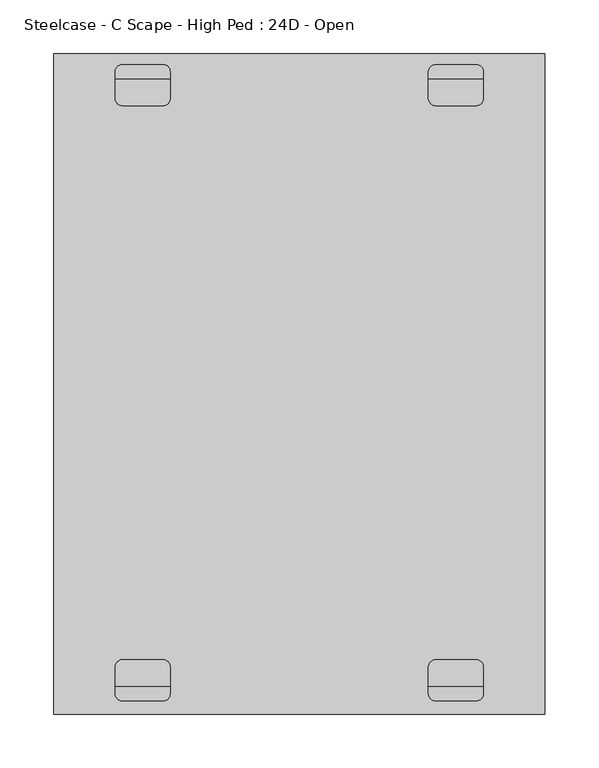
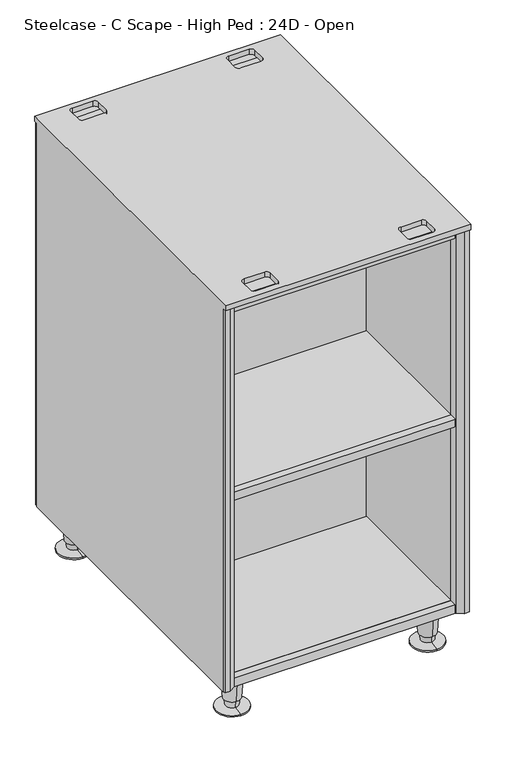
"""IFC4 building model written with IfcOpenShell, lengths in millimetres: furniture geometry, Steelcase - C Scape - High Ped : 24D - Open."""

from ifc_helpers import new_model, si_unit, frame, origin, place, context, project, spatial, polyline, circle_curve, outline, extrude, faceted_brep, source, transform, mapped, element, save
from ifc_brep_helpers import plane_surface, cylinder_surface, revolved_surface, advanced_brep


def steelcase_c_scape_high_ped_24d_open_cd475395(model_context):
    return source(origin(), model_context, "Body", "SolidModel", [
        extrude(outline(polyline([(11.5822775, -605.028), (11.5822775, -587.2480233), (21.5898062, -587.2480233), (21.5898062, -602.2339845), (9.5419322, -609.4730775), (0.3980765, -609.4730775), (0.3980765, -605.028), (11.5822775, -605.028)])), frame((0.0, 0.0, 76.2), z_axis=(0.0, 0.0, 1.0), x_axis=(1.0, 0.0, 0.0)), (0.0, 0.0, 1.0), 751.84),
        extrude(outline(polyline([(443.0776, -605.028), (454.2616522, -605.028), (454.2616522, -609.4730775), (445.1174429, -609.4730775), (433.07, -602.2342435), (433.07, -587.2480233), (443.0776, -587.2480233), (443.0776, -605.028)])), frame((0.0, 0.0, 76.2), z_axis=(0.0, 0.0, 1.0), x_axis=(1.0, 0.0, 0.0)), (0.0, 0.0, 1.0), 751.84),
        advanced_brep(
        [(408.94, -583.3530306, 0.0), (408.94, -524.1275906, 0.0), (408.94, -553.7403106, 0.0), (408.94, -583.3530306, 2.6912335), (408.94, -524.1275906, 2.6912335), (408.94, -565.6978983, 5.8043097), (408.94, -541.7827229, 5.8043097), (408.94, -566.3920755, 19.05), (408.94, -541.0885457, 19.05), (408.94, -569.1181713, 19.05), (408.94, -538.3624499, 19.05), (408.94, -573.1144886, 76.2), (408.94, -534.3661326, 76.2), (408.94, -553.7403106, 76.2)],
        [
            (0, 1, circle_curve(frame((408.94, -553.7403106, 0.0), z_axis=(0.0, 0.0, -1.0), x_axis=(0.0, 1.0, 0.0)), 29.61272)),
            (1, 2),
            (2, 0),
            (1, 0, circle_curve(frame((408.94, -553.7403106, 0.0), z_axis=(0.0, 0.0, -1.0), x_axis=(0.0, 1.0, 0.0)), 29.61272)),
            (3, 4, circle_curve(frame((408.94, -553.7403106, 2.6912335), z_axis=(0.0, 0.0, -1.0), x_axis=(0.0, 1.0, 0.0)), 29.61272)),
            (4, 1),
            (0, 3),
            (4, 3, circle_curve(frame((408.94, -553.7403106, 2.6912335), z_axis=(0.0, 0.0, -1.0), x_axis=(0.0, 1.0, 0.0)), 29.61272)),
            (5, 6, circle_curve(frame((408.94, -553.7403106, 5.8043097), z_axis=(0.0, 0.0, -1.0), x_axis=(0.0, 1.0, 0.0)), 11.9575877)),
            (6, 4),
            (3, 5),
            (6, 5, circle_curve(frame((408.94, -553.7403106, 5.8043097), z_axis=(0.0, 0.0, -1.0), x_axis=(0.0, 1.0, 0.0)), 11.9575877)),
            (7, 8, circle_curve(frame((408.94, -553.7403106, 19.05), z_axis=(0.0, 0.0, -1.0), x_axis=(0.0, 1.0, 0.0)), 12.6517649)),
            (8, 6),
            (5, 7),
            (8, 7, circle_curve(frame((408.94, -553.7403106, 19.05), z_axis=(0.0, 0.0, -1.0), x_axis=(0.0, 1.0, 0.0)), 12.6517649)),
            (9, 10, circle_curve(frame((408.94, -553.7403106, 19.05), z_axis=(0.0, 0.0, -1.0), x_axis=(0.0, 1.0, 0.0)), 15.3778607)),
            (10, 8),
            (7, 9),
            (10, 9, circle_curve(frame((408.94, -553.7403106, 19.05), z_axis=(0.0, 0.0, -1.0), x_axis=(0.0, 1.0, 0.0)), 15.3778607)),
            (11, 12, circle_curve(frame((408.94, -553.7403106, 76.2), z_axis=(0.0, 0.0, -1.0), x_axis=(0.0, 1.0, 0.0)), 19.374178)),
            (12, 10),
            (9, 11),
            (12, 11, circle_curve(frame((408.94, -553.7403106, 76.2), z_axis=(0.0, 0.0, -1.0), x_axis=(0.0, 1.0, 0.0)), 19.374178)),
            (13, 12),
            (11, 13),
        ],
        [
            plane_surface(frame((408.94, -553.7403106, 0.0), z_axis=(0.0, 0.0, -1.0), x_axis=(0.0, 1.0, 0.0))),
            cylinder_surface(frame((408.94, -553.7403106, -7.7422201), z_axis=(0.0, 0.0, 1.0), x_axis=(0.0, 1.0, 0.0)), 29.61272),
            revolved_surface(polyline([(408.94, -524.1275906, 2.6912335), (408.94, -541.7827229, 5.8043097)]), (408.94, -553.7403106, -7.7422201), (0.0, 0.0, 1.0)),
            revolved_surface(polyline([(408.94, -541.7827229, 5.8043097), (408.94, -541.0885457, 19.05)]), (408.94, -553.7403106, -7.7422201), (0.0, 0.0, 1.0)),
            plane_surface(frame((408.94, -553.7403106, 19.05), z_axis=(0.0, 0.0, -1.0), x_axis=(0.0, 1.0, 0.0))),
            revolved_surface(polyline([(408.94, -538.3624499, 19.05), (408.94, -534.3661326, 76.2)]), (408.94, -553.7403106, -7.7422201), (0.0, 0.0, 1.0)),
            plane_surface(frame((408.94, -553.7403106, 76.2), z_axis=(0.0, 0.0, 1.0), x_axis=(0.0, 1.0, 0.0))),
        ],
        [
            (0, [[1, 2, 3]]),
            (0, [[4, -3, -2]]),
            (1, [[5, 6, -1, 7]]),
            (1, [[8, -7, -4, -6]]),
            (2, [[9, 10, -5, 11]]),
            (2, [[12, -11, -8, -10]]),
            (3, [[13, 14, -9, 15]]),
            (3, [[16, -15, -12, -14]]),
            (4, [[17, 18, -13, 19]]),
            (4, [[20, -19, -16, -18]]),
            (5, [[21, 22, -17, 23]]),
            (5, [[24, -23, -20, -22]]),
            (6, [[25, -21, 26]]),
            (6, [[-26, -24, -25]]),
        ],
    ),
        advanced_brep(
        [(408.94, -25.4364339, 76.2), (408.94, -64.1847898, 76.2), (408.94, -44.8106119, 76.2), (408.94, -29.4327512, 19.05), (408.94, -60.1884725, 19.05), (408.94, -32.1588469, 19.05), (408.94, -57.4623768, 19.05), (408.94, -32.8530242, 5.8043097), (408.94, -56.7681995, 5.8043097), (408.94, -15.1978918, 2.6912335), (408.94, -74.4233319, 2.6912335), (408.94, -15.1978918, 0.0), (408.94, -74.4233319, 0.0), (408.94, -44.8106119, 0.0)],
        [
            (0, 1, circle_curve(frame((408.94, -44.8106119, 76.2), z_axis=(0.0, 0.0, 1.0), x_axis=(0.0, -1.0, 0.0)), 19.374178)),
            (1, 2),
            (2, 0),
            (1, 0, circle_curve(frame((408.94, -44.8106119, 76.2), z_axis=(0.0, 0.0, 1.0), x_axis=(0.0, -1.0, 0.0)), 19.374178)),
            (3, 4, circle_curve(frame((408.94, -44.8106119, 19.05), z_axis=(0.0, 0.0, 1.0), x_axis=(0.0, -1.0, 0.0)), 15.3778607)),
            (4, 1),
            (0, 3),
            (4, 3, circle_curve(frame((408.94, -44.8106119, 19.05), z_axis=(0.0, 0.0, 1.0), x_axis=(0.0, -1.0, 0.0)), 15.3778607)),
            (5, 6, circle_curve(frame((408.94, -44.8106119, 19.05), z_axis=(0.0, 0.0, 1.0), x_axis=(0.0, -1.0, 0.0)), 12.6517649)),
            (6, 4),
            (3, 5),
            (6, 5, circle_curve(frame((408.94, -44.8106119, 19.05), z_axis=(0.0, 0.0, 1.0), x_axis=(0.0, -1.0, 0.0)), 12.6517649)),
            (7, 8, circle_curve(frame((408.94, -44.8106119, 5.8043097), z_axis=(0.0, 0.0, 1.0), x_axis=(0.0, -1.0, 0.0)), 11.9575877)),
            (8, 6),
            (5, 7),
            (8, 7, circle_curve(frame((408.94, -44.8106119, 5.8043097), z_axis=(0.0, 0.0, 1.0), x_axis=(0.0, -1.0, 0.0)), 11.9575877)),
            (9, 10, circle_curve(frame((408.94, -44.8106119, 2.6912335), z_axis=(0.0, 0.0, 1.0), x_axis=(0.0, -1.0, 0.0)), 29.61272)),
            (10, 8),
            (7, 9),
            (10, 9, circle_curve(frame((408.94, -44.8106119, 2.6912335), z_axis=(0.0, 0.0, 1.0), x_axis=(0.0, -1.0, 0.0)), 29.61272)),
            (11, 12, circle_curve(frame((408.94, -44.8106119, 0.0), z_axis=(0.0, 0.0, 1.0), x_axis=(0.0, -1.0, 0.0)), 29.61272)),
            (12, 10),
            (9, 11),
            (12, 11, circle_curve(frame((408.94, -44.8106119, 0.0), z_axis=(0.0, 0.0, 1.0), x_axis=(0.0, -1.0, 0.0)), 29.61272)),
            (13, 12),
            (11, 13),
        ],
        [
            plane_surface(frame((408.94, -44.8106119, 76.2), z_axis=(0.0, 0.0, 1.0), x_axis=(0.0, -1.0, 0.0))),
            revolved_surface(polyline([(408.94, -64.1847898, 76.2), (408.94, -60.1884725, 19.05)]), (408.94, -44.8106119, -7.7422201), (0.0, 0.0, -1.0)),
            plane_surface(frame((408.94, -44.8106119, 19.05), z_axis=(0.0, 0.0, -1.0), x_axis=(0.0, -1.0, 0.0))),
            revolved_surface(polyline([(408.94, -57.4623768, 19.05), (408.94, -56.7681995, 5.8043097)]), (408.94, -44.8106119, -7.7422201), (0.0, 0.0, -1.0)),
            revolved_surface(polyline([(408.94, -56.7681995, 5.8043097), (408.94, -74.4233319, 2.6912335)]), (408.94, -44.8106119, -7.7422201), (0.0, 0.0, -1.0)),
            cylinder_surface(frame((408.94, -44.8106119, -7.7422201), z_axis=(0.0, 0.0, -1.0), x_axis=(0.0, -1.0, 0.0)), 29.61272),
            plane_surface(frame((408.94, -44.8106119, 0.0), z_axis=(0.0, 0.0, -1.0), x_axis=(0.0, -1.0, 0.0))),
        ],
        [
            (0, [[1, 2, 3]]),
            (0, [[4, -3, -2]]),
            (1, [[5, 6, -1, 7]]),
            (1, [[8, -7, -4, -6]]),
            (2, [[9, 10, -5, 11]]),
            (2, [[12, -11, -8, -10]]),
            (3, [[13, 14, -9, 15]]),
            (3, [[16, -15, -12, -14]]),
            (4, [[17, 18, -13, 19]]),
            (4, [[20, -19, -16, -18]]),
            (5, [[21, 22, -17, 23]]),
            (5, [[24, -23, -20, -22]]),
            (6, [[25, -21, 26]]),
            (6, [[-26, -24, -25]]),
        ],
    ),
        advanced_brep(
        [(45.7198062, -573.1144886, 76.2), (45.7198062, -534.3661326, 76.2), (45.7198062, -553.7403106, 76.2), (45.7198062, -569.1181713, 19.05), (45.7198062, -538.3624499, 19.05), (45.7198062, -566.3920755, 19.05), (45.7198062, -541.0885457, 19.05), (45.7198062, -565.6978983, 5.8043097), (45.7198062, -541.7827229, 5.8043097), (45.7198062, -583.3530306, 2.6912335), (45.7198062, -524.1275906, 2.6912335), (45.7198062, -583.3530306, 0.0), (45.7198062, -524.1275906, 0.0), (45.7198062, -553.7403106, 0.0)],
        [
            (0, 1, circle_curve(frame((45.7198062, -553.7403106, 76.2), z_axis=(0.0, 0.0, 1.0), x_axis=(0.0, 1.0, 0.0)), 19.374178)),
            (1, 2),
            (2, 0),
            (1, 0, circle_curve(frame((45.7198062, -553.7403106, 76.2), z_axis=(0.0, 0.0, 1.0), x_axis=(0.0, 1.0, 0.0)), 19.374178)),
            (3, 4, circle_curve(frame((45.7198062, -553.7403106, 19.05), z_axis=(0.0, 0.0, 1.0), x_axis=(0.0, 1.0, 0.0)), 15.3778607)),
            (4, 1),
            (0, 3),
            (4, 3, circle_curve(frame((45.7198062, -553.7403106, 19.05), z_axis=(0.0, 0.0, 1.0), x_axis=(0.0, 1.0, 0.0)), 15.3778607)),
            (5, 6, circle_curve(frame((45.7198062, -553.7403106, 19.05), z_axis=(0.0, 0.0, 1.0), x_axis=(0.0, 1.0, 0.0)), 12.6517649)),
            (6, 4),
            (3, 5),
            (6, 5, circle_curve(frame((45.7198062, -553.7403106, 19.05), z_axis=(0.0, 0.0, 1.0), x_axis=(0.0, 1.0, 0.0)), 12.6517649)),
            (7, 8, circle_curve(frame((45.7198062, -553.7403106, 5.8043097), z_axis=(0.0, 0.0, 1.0), x_axis=(0.0, 1.0, 0.0)), 11.9575877)),
            (8, 6),
            (5, 7),
            (8, 7, circle_curve(frame((45.7198062, -553.7403106, 5.8043097), z_axis=(0.0, 0.0, 1.0), x_axis=(0.0, 1.0, 0.0)), 11.9575877)),
            (9, 10, circle_curve(frame((45.7198062, -553.7403106, 2.6912335), z_axis=(0.0, 0.0, 1.0), x_axis=(0.0, 1.0, 0.0)), 29.61272)),
            (10, 8),
            (7, 9),
            (10, 9, circle_curve(frame((45.7198062, -553.7403106, 2.6912335), z_axis=(0.0, 0.0, 1.0), x_axis=(0.0, 1.0, 0.0)), 29.61272)),
            (11, 12, circle_curve(frame((45.7198062, -553.7403106, 0.0), z_axis=(0.0, 0.0, 1.0), x_axis=(0.0, 1.0, 0.0)), 29.61272)),
            (12, 10),
            (9, 11),
            (12, 11, circle_curve(frame((45.7198062, -553.7403106, 0.0), z_axis=(0.0, 0.0, 1.0), x_axis=(0.0, 1.0, 0.0)), 29.61272)),
            (13, 12),
            (11, 13),
        ],
        [
            plane_surface(frame((45.7198062, -553.7403106, 76.2), z_axis=(0.0, 0.0, 1.0), x_axis=(0.0, 1.0, 0.0))),
            revolved_surface(polyline([(45.7198062, -534.3661326, 76.2), (45.7198062, -538.3624499, 19.05)]), (45.7198062, -553.7403106, -7.7422201), (0.0, 0.0, -1.0)),
            plane_surface(frame((45.7198062, -553.7403106, 19.05), z_axis=(0.0, 0.0, -1.0), x_axis=(0.0, 1.0, 0.0))),
            revolved_surface(polyline([(45.7198062, -541.0885457, 19.05), (45.7198062, -541.7827229, 5.8043097)]), (45.7198062, -553.7403106, -7.7422201), (0.0, 0.0, -1.0)),
            revolved_surface(polyline([(45.7198062, -541.7827229, 5.8043097), (45.7198062, -524.1275906, 2.6912335)]), (45.7198062, -553.7403106, -7.7422201), (0.0, 0.0, -1.0)),
            cylinder_surface(frame((45.7198062, -553.7403106, -7.7422201), z_axis=(0.0, 0.0, -1.0), x_axis=(0.0, 1.0, 0.0)), 29.61272),
            plane_surface(frame((45.7198062, -553.7403106, 0.0), z_axis=(0.0, 0.0, -1.0), x_axis=(0.0, 1.0, 0.0))),
        ],
        [
            (0, [[1, 2, 3]]),
            (0, [[4, -3, -2]]),
            (1, [[5, 6, -1, 7]]),
            (1, [[8, -7, -4, -6]]),
            (2, [[9, 10, -5, 11]]),
            (2, [[12, -11, -8, -10]]),
            (3, [[13, 14, -9, 15]]),
            (3, [[16, -15, -12, -14]]),
            (4, [[17, 18, -13, 19]]),
            (4, [[20, -19, -16, -18]]),
            (5, [[21, 22, -17, 23]]),
            (5, [[24, -23, -20, -22]]),
            (6, [[25, -21, 26]]),
            (6, [[-26, -24, -25]]),
        ],
    ),
        advanced_brep(
        [(45.7198062, -15.1978918, 0.0), (45.7198062, -74.4233319, 0.0), (45.7198062, -44.8106119, 0.0), (45.7198062, -15.1978918, 2.6912335), (45.7198062, -74.4233319, 2.6912335), (45.7198062, -32.8530242, 5.8043097), (45.7198062, -56.7681995, 5.8043097), (45.7198062, -32.1588469, 19.05), (45.7198062, -57.4623768, 19.05), (45.7198062, -29.4327512, 19.05), (45.7198062, -60.1884725, 19.05), (45.7198062, -25.4364339, 76.2), (45.7198062, -64.1847898, 76.2), (45.7198062, -44.8106119, 76.2)],
        [
            (0, 1, circle_curve(frame((45.7198062, -44.8106119, 0.0), z_axis=(0.0, 0.0, -1.0), x_axis=(0.0, -1.0, 0.0)), 29.61272)),
            (1, 2),
            (2, 0),
            (1, 0, circle_curve(frame((45.7198062, -44.8106119, 0.0), z_axis=(0.0, 0.0, -1.0), x_axis=(0.0, -1.0, 0.0)), 29.61272)),
            (3, 4, circle_curve(frame((45.7198062, -44.8106119, 2.6912335), z_axis=(0.0, 0.0, -1.0), x_axis=(0.0, -1.0, 0.0)), 29.61272)),
            (4, 1),
            (0, 3),
            (4, 3, circle_curve(frame((45.7198062, -44.8106119, 2.6912335), z_axis=(0.0, 0.0, -1.0), x_axis=(0.0, -1.0, 0.0)), 29.61272)),
            (5, 6, circle_curve(frame((45.7198062, -44.8106119, 5.8043097), z_axis=(0.0, 0.0, -1.0), x_axis=(0.0, -1.0, 0.0)), 11.9575877)),
            (6, 4),
            (3, 5),
            (6, 5, circle_curve(frame((45.7198062, -44.8106119, 5.8043097), z_axis=(0.0, 0.0, -1.0), x_axis=(0.0, -1.0, 0.0)), 11.9575877)),
            (7, 8, circle_curve(frame((45.7198062, -44.8106119, 19.05), z_axis=(0.0, 0.0, -1.0), x_axis=(0.0, -1.0, 0.0)), 12.6517649)),
            (8, 6),
            (5, 7),
            (8, 7, circle_curve(frame((45.7198062, -44.8106119, 19.05), z_axis=(0.0, 0.0, -1.0), x_axis=(0.0, -1.0, 0.0)), 12.6517649)),
            (9, 10, circle_curve(frame((45.7198062, -44.8106119, 19.05), z_axis=(0.0, 0.0, -1.0), x_axis=(0.0, -1.0, 0.0)), 15.3778607)),
            (10, 8),
            (7, 9),
            (10, 9, circle_curve(frame((45.7198062, -44.8106119, 19.05), z_axis=(0.0, 0.0, -1.0), x_axis=(0.0, -1.0, 0.0)), 15.3778607)),
            (11, 12, circle_curve(frame((45.7198062, -44.8106119, 76.2), z_axis=(0.0, 0.0, -1.0), x_axis=(0.0, -1.0, 0.0)), 19.374178)),
            (12, 10),
            (9, 11),
            (12, 11, circle_curve(frame((45.7198062, -44.8106119, 76.2), z_axis=(0.0, 0.0, -1.0), x_axis=(0.0, -1.0, 0.0)), 19.374178)),
            (13, 12),
            (11, 13),
        ],
        [
            plane_surface(frame((45.7198062, -44.8106119, 0.0), z_axis=(0.0, 0.0, -1.0), x_axis=(0.0, -1.0, 0.0))),
            cylinder_surface(frame((45.7198062, -44.8106119, -7.7422201), z_axis=(0.0, 0.0, 1.0), x_axis=(0.0, -1.0, 0.0)), 29.61272),
            revolved_surface(polyline([(45.7198062, -74.4233319, 2.6912335), (45.7198062, -56.7681995, 5.8043097)]), (45.7198062, -44.8106119, -7.7422201), (0.0, 0.0, 1.0)),
            revolved_surface(polyline([(45.7198062, -56.7681995, 5.8043097), (45.7198062, -57.4623768, 19.05)]), (45.7198062, -44.8106119, -7.7422201), (0.0, 0.0, 1.0)),
            plane_surface(frame((45.7198062, -44.8106119, 19.05), z_axis=(0.0, 0.0, -1.0), x_axis=(0.0, -1.0, 0.0))),
            revolved_surface(polyline([(45.7198062, -60.1884725, 19.05), (45.7198062, -64.1847898, 76.2)]), (45.7198062, -44.8106119, -7.7422201), (0.0, 0.0, 1.0)),
            plane_surface(frame((45.7198062, -44.8106119, 76.2), z_axis=(0.0, 0.0, 1.0), x_axis=(0.0, -1.0, 0.0))),
        ],
        [
            (0, [[1, 2, 3]]),
            (0, [[4, -3, -2]]),
            (1, [[5, 6, -1, 7]]),
            (1, [[8, -7, -4, -6]]),
            (2, [[9, 10, -5, 11]]),
            (2, [[12, -11, -8, -10]]),
            (3, [[13, 14, -9, 15]]),
            (3, [[16, -15, -12, -14]]),
            (4, [[17, 18, -13, 19]]),
            (4, [[20, -19, -16, -18]]),
            (5, [[21, 22, -17, 23]]),
            (5, [[24, -23, -20, -22]]),
            (6, [[25, -21, 26]]),
            (6, [[-26, -24, -25]]),
        ],
    ),
        advanced_brep(
        [(-0.635, -613.156, 838.2), (-0.635, 0.0, 838.2), (-0.635, 0.0, 828.04), (-0.635, -5.842, 828.04), (-0.635, -5.842, 76.2), (-0.635, -605.028, 76.2), (-0.635, -605.028, 828.04), (-0.635, -613.156, 828.04), (455.295, -613.156, 838.2), (455.295, -613.156, 828.04), (455.295, -605.028, 828.04), (455.295, -605.028, 76.2), (455.295, -5.842, 76.2), (455.295, -5.842, 828.04), (455.295, 0.0, 828.04), (455.295, 0.0, 838.2), (21.5898062, -587.2480233, 92.7100024), (433.0701938, -587.2480233, 92.7100024), (433.0701938, -315.595, 92.7100024), (21.5898062, -315.595, 92.7100024), (433.0701938, -23.6219767, 92.7100024), (21.5898062, -23.6219767, 92.7100024), (21.5898062, -297.561, 92.7100024), (433.0701938, -297.561, 92.7100024), (443.0777225, -23.6219767, 828.04), (443.0777225, -23.6219767, 76.2), (11.5822775, -23.6219767, 76.2), (11.5822775, -23.6219767, 828.04), (56.5151938, -23.6219767, 828.04), (107.3148062, -23.6219767, 828.04), (347.3449225, -23.6219767, 828.04), (398.1445349, -23.6219767, 828.04), (433.0701938, -23.6219767, 441.604404), (21.5898062, -23.6219767, 441.604404), (21.5898062, -23.6219767, 457.2), (433.0701938, -23.6219767, 457.2), (433.0701938, -23.6219767, 811.5299709), (21.5898062, -23.6219767, 811.5299709), (11.5822775, -5.842, 76.2), (443.0777225, -5.842, 76.2), (443.0777225, -605.028, 76.2), (443.0777225, -587.2480233, 76.2), (11.5822775, -587.2480233, 76.2), (11.5822775, -605.028, 76.2), (347.3449225, -587.2480233, 828.04), (107.3148062, -587.2480233, 828.04), (56.5151938, -587.2480233, 828.04), (11.5822775, -587.2480233, 828.04), (443.0777225, -587.2480233, 828.04), (398.1445349, -587.2480233, 828.04), (21.5898062, -587.2480233, 441.604404), (433.0701938, -587.2480233, 441.604404), (433.0701938, -587.2480233, 457.2), (21.5898062, -587.2480233, 457.2), (21.5898062, -587.2480233, 811.5299709), (433.0701938, -587.2480233, 811.5299709), (21.5898062, -297.561, 457.2), (433.0701938, -297.561, 457.2), (433.0701938, -315.595, 457.2), (21.5898062, -315.595, 457.2), (433.0701938, -297.561, 441.604404), (21.5898062, -297.561, 441.604404), (21.5898062, -315.595, 441.604404), (433.0701938, -315.595, 441.604404), (100.9648062, -600.9640465, 838.2), (62.8651938, -600.9640465, 838.2), (56.5151938, -594.6132714, 838.2), (56.5151938, -569.2140465, 838.2), (62.8651938, -562.8640465, 838.2), (100.9648062, -562.8640465, 838.2), (107.3148062, -569.2140465, 838.2), (107.3148062, -594.6132714, 838.2), (353.694535, -600.9632714, 838.2), (347.3449225, -594.6132714, 838.2), (347.3449225, -569.2140465, 838.2), (353.6949225, -562.8640465, 838.2), (391.7945349, -562.8640465, 838.2), (398.1445349, -569.2140465, 838.2), (398.1445349, -594.6132714, 838.2), (391.7945349, -600.9632714, 838.2), (107.3148062, -41.6555117, 838.2), (100.9648062, -48.0055117, 838.2), (62.8651938, -48.0062868, 838.2), (56.5151938, -41.6555117, 838.2), (56.5151938, -16.2562868, 838.2), (62.8651938, -9.9062868, 838.2), (100.9648062, -9.9062868, 838.2), (107.3148062, -16.2562868, 838.2), (391.7945349, -48.0062868, 838.2), (353.694535, -48.0062868, 838.2), (347.3449225, -41.6555117, 838.2), (347.3449225, -16.2562868, 838.2), (353.6949225, -9.9062868, 838.2), (391.7945349, -9.9062868, 838.2), (398.1445349, -16.2562868, 838.2), (398.1445349, -41.6555117, 838.2), (443.0777225, -5.842, 828.04), (398.1445349, -16.2562868, 828.04), (391.7945349, -9.9062868, 828.04), (353.6949225, -9.9062868, 828.04), (347.3449225, -16.2562868, 828.04), (107.3148062, -16.2562868, 828.04), (100.9648062, -9.9062868, 828.04), (62.8651938, -9.9062868, 828.04), (56.5151938, -16.2562868, 828.04), (11.5822775, -5.842, 828.04), (433.0701938, -297.561, 811.5299709), (21.5898062, -297.561, 811.5299709), (21.5898062, -315.595, 811.5299709), (433.0701938, -315.595, 811.5299709), (11.5822775, -605.028, 828.04), (56.5151938, -594.6132714, 828.04), (62.8651938, -600.9632714, 828.04), (100.9648062, -600.9640465, 828.04), (107.3148062, -594.6132714, 828.04), (347.3449225, -594.6132714, 828.04), (353.694535, -600.9632714, 828.04), (391.7945349, -600.9640465, 828.04), (398.1445349, -594.6132714, 828.04), (443.0777225, -605.028, 828.04), (107.3148062, -569.2140465, 828.04), (100.9648062, -562.8640465, 828.04), (62.8651938, -562.8640465, 828.04), (56.5151938, -569.2140465, 828.04), (398.1445349, -569.2140465, 828.04), (391.7945349, -562.8640465, 828.04), (353.6949225, -562.8640465, 828.04), (347.3449225, -569.2140465, 828.04), (100.9648062, -48.0055117, 828.04), (107.3148062, -41.6555117, 828.04), (56.5151938, -41.6555117, 828.04), (62.8651938, -48.0055117, 828.04), (353.6945349, -48.0062868, 828.04), (391.7945349, -48.0062868, 828.04), (398.1445349, -41.6555117, 828.04), (347.3449225, -41.6555117, 828.04)],
        [
            (0, 1),
            (1, 2),
            (2, 3),
            (3, 4),
            (4, 5),
            (5, 6),
            (6, 7),
            (7, 0),
            (8, 9),
            (9, 10),
            (10, 11),
            (11, 12),
            (12, 13),
            (13, 14),
            (14, 15),
            (15, 8),
            (16, 17),
            (17, 18),
            (18, 19),
            (19, 16),
            (20, 21),
            (21, 22),
            (22, 23),
            (23, 20),
            (24, 25),
            (25, 26),
            (26, 27),
            (27, 28),
            (28, 29),
            (29, 30),
            (30, 31),
            (31, 24),
            (20, 32),
            (32, 33),
            (33, 21),
            (34, 35),
            (35, 36),
            (36, 37),
            (37, 34),
            (38, 26),
            (25, 39),
            (39, 12),
            (11, 40),
            (40, 41),
            (41, 42),
            (42, 43),
            (43, 5),
            (4, 38),
            (44, 45),
            (45, 46),
            (46, 47),
            (47, 42),
            (41, 48),
            (48, 49),
            (49, 44),
            (16, 50),
            (50, 51),
            (51, 17),
            (52, 53),
            (53, 54),
            (54, 55),
            (55, 52),
            (34, 56),
            (56, 57),
            (57, 35),
            (52, 58),
            (58, 59),
            (59, 53),
            (32, 60),
            (60, 61),
            (61, 33),
            (50, 62),
            (62, 63),
            (63, 51),
            (0, 8),
            (15, 1),
            (64, 65),
            (65, 66, circle_curve(frame((62.8651938, -594.6132714, 838.2), z_axis=(0.0, 0.0, -1.0), x_axis=(0.0, -1.0, 0.0)), 6.35)),
            (66, 67),
            (67, 68, circle_curve(frame((62.8651938, -569.2140465, 838.2), z_axis=(0.0, 0.0, -1.0), x_axis=(0.0, -1.0, 0.0)), 6.35)),
            (68, 69),
            (69, 70, circle_curve(frame((100.9648062, -569.2140465, 838.2), z_axis=(0.0, 0.0, -1.0), x_axis=(0.0, -1.0, 0.0)), 6.35)),
            (70, 71),
            (71, 64, circle_curve(frame((100.9648062, -594.6132714, 838.2), z_axis=(0.0, 0.0, -1.0), x_axis=(0.0, -1.0, 0.0)), 6.35)),
            (72, 73, circle_curve(frame((353.6949225, -594.6132714, 838.2), z_axis=(0.0, 0.0, -1.0), x_axis=(0.0, -1.0, 0.0)), 6.35)),
            (73, 74),
            (74, 75, circle_curve(frame((353.6949225, -569.2140465, 838.2), z_axis=(0.0, 0.0, -1.0), x_axis=(0.0, -1.0, 0.0)), 6.35)),
            (75, 76),
            (76, 77, circle_curve(frame((391.7945349, -569.2140465, 838.2), z_axis=(0.0, 0.0, -1.0), x_axis=(0.0, -1.0, 0.0)), 6.35)),
            (77, 78),
            (78, 79, circle_curve(frame((391.7945349, -594.6132714, 838.2), z_axis=(0.0, 0.0, -1.0), x_axis=(0.0, -1.0, 0.0)), 6.35)),
            (79, 72),
            (80, 81, circle_curve(frame((100.9648062, -41.6555117, 838.2), z_axis=(0.0, 0.0, -1.0), x_axis=(0.0, 1.0, 0.0)), 6.35)),
            (81, 82),
            (82, 83, circle_curve(frame((62.8651938, -41.6555117, 838.2), z_axis=(0.0, 0.0, -1.0), x_axis=(0.0, 1.0, 0.0)), 6.35)),
            (83, 84),
            (84, 85, circle_curve(frame((62.8651938, -16.2562868, 838.2), z_axis=(0.0, 0.0, -1.0), x_axis=(0.0, 1.0, 0.0)), 6.35)),
            (85, 86),
            (86, 87, circle_curve(frame((100.9648062, -16.2562868, 838.2), z_axis=(0.0, 0.0, -1.0), x_axis=(0.0, 1.0, 0.0)), 6.35)),
            (87, 80),
            (88, 89),
            (89, 90, circle_curve(frame((353.6949225, -41.6555117, 838.2), z_axis=(0.0, 0.0, -1.0), x_axis=(0.0, 1.0, 0.0)), 6.35)),
            (90, 91),
            (91, 92, circle_curve(frame((353.6949225, -16.2562868, 838.2), z_axis=(0.0, 0.0, -1.0), x_axis=(0.0, 1.0, 0.0)), 6.35)),
            (92, 93),
            (93, 94, circle_curve(frame((391.7945349, -16.2562868, 838.2), z_axis=(0.0, 0.0, -1.0), x_axis=(0.0, 1.0, 0.0)), 6.35)),
            (94, 95),
            (95, 88, circle_curve(frame((391.7945349, -41.6555117, 838.2), z_axis=(0.0, 0.0, -1.0), x_axis=(0.0, 1.0, 0.0)), 6.35)),
            (14, 2),
            (13, 96),
            (96, 24),
            (31, 97),
            (97, 98, circle_curve(frame((391.7945349, -16.2562868, 828.04), z_axis=(0.0, 0.0, 1.0), x_axis=(0.0, 1.0, 0.0)), 6.35)),
            (98, 99),
            (99, 100, circle_curve(frame((353.6949225, -16.2562868, 828.04), z_axis=(0.0, 0.0, 1.0), x_axis=(0.0, 1.0, 0.0)), 6.35)),
            (100, 30),
            (29, 101),
            (101, 102, circle_curve(frame((100.9648062, -16.2562868, 828.04), z_axis=(0.0, 0.0, 1.0), x_axis=(0.0, 1.0, 0.0)), 6.35)),
            (102, 103),
            (103, 104, circle_curve(frame((62.8651938, -16.2562868, 828.04), z_axis=(0.0, 0.0, 1.0), x_axis=(0.0, 1.0, 0.0)), 6.35)),
            (104, 28),
            (27, 105),
            (105, 3),
            (36, 106),
            (106, 107),
            (107, 37),
            (54, 108),
            (108, 109),
            (109, 55),
            (9, 7),
            (6, 110),
            (110, 47),
            (46, 111),
            (111, 112, circle_curve(frame((62.8651938, -594.6132714, 828.04), z_axis=(0.0, 0.0, 1.0), x_axis=(0.0, -1.0, 0.0)), 6.35)),
            (112, 113),
            (113, 114, circle_curve(frame((100.9648062, -594.6132714, 828.04), z_axis=(0.0, 0.0, 1.0), x_axis=(0.0, -1.0, 0.0)), 6.35)),
            (114, 45),
            (44, 115),
            (115, 116, circle_curve(frame((353.6949225, -594.6132714, 828.04), z_axis=(0.0, 0.0, 1.0), x_axis=(0.0, -1.0, 0.0)), 6.35)),
            (116, 117),
            (117, 118, circle_curve(frame((391.7945349, -594.6132714, 828.04), z_axis=(0.0, 0.0, 1.0), x_axis=(0.0, -1.0, 0.0)), 6.35)),
            (118, 49),
            (48, 119),
            (119, 10),
            (120, 121, circle_curve(frame((100.9648062, -569.2140465, 828.04), z_axis=(0.0, 0.0, 1.0), x_axis=(0.0, -1.0, 0.0)), 6.35)),
            (121, 122),
            (122, 123, circle_curve(frame((62.8651938, -569.2140465, 828.04), z_axis=(0.0, 0.0, 1.0), x_axis=(0.0, -1.0, 0.0)), 6.35)),
            (123, 46),
            (45, 120),
            (124, 125, circle_curve(frame((391.7945349, -569.2140465, 828.04), z_axis=(0.0, 0.0, 1.0), x_axis=(0.0, -1.0, 0.0)), 6.35)),
            (125, 126),
            (126, 127, circle_curve(frame((353.6949225, -569.2140465, 828.04), z_axis=(0.0, 0.0, 1.0), x_axis=(0.0, -1.0, 0.0)), 6.35)),
            (127, 44),
            (49, 124),
            (112, 65),
            (64, 113),
            (111, 66),
            (123, 67),
            (122, 68),
            (121, 69),
            (120, 70),
            (114, 71),
            (115, 73),
            (72, 116),
            (127, 74),
            (126, 75),
            (125, 76),
            (124, 77),
            (118, 78),
            (117, 79),
            (105, 38),
            (43, 110),
            (61, 22),
            (107, 56),
            (19, 62),
            (59, 108),
            (96, 39),
            (23, 60),
            (57, 106),
            (63, 18),
            (109, 58),
            (40, 119),
            (128, 129, circle_curve(frame((100.9648062, -41.6555117, 828.04), z_axis=(0.0, 0.0, 1.0), x_axis=(0.0, 1.0, 0.0)), 6.35)),
            (129, 29),
            (28, 130),
            (130, 131, circle_curve(frame((62.8651938, -41.6555117, 828.04), z_axis=(0.0, 0.0, 1.0), x_axis=(0.0, 1.0, 0.0)), 6.35)),
            (131, 128),
            (132, 133),
            (133, 134, circle_curve(frame((391.7945349, -41.6555117, 828.04), z_axis=(0.0, 0.0, 1.0), x_axis=(0.0, 1.0, 0.0)), 6.35)),
            (134, 31),
            (30, 135),
            (135, 132, circle_curve(frame((353.6949225, -41.6555117, 828.04), z_axis=(0.0, 0.0, 1.0), x_axis=(0.0, 1.0, 0.0)), 6.35)),
            (131, 82),
            (81, 128),
            (130, 83),
            (104, 84),
            (103, 85),
            (102, 86),
            (101, 87),
            (129, 80),
            (135, 90),
            (89, 132),
            (100, 91),
            (99, 92),
            (98, 93),
            (97, 94),
            (134, 95),
            (133, 88),
        ],
        [
            plane_surface(frame((-0.635, -23.6219767, 92.7100024), z_axis=(-1.0, 0.0, 0.0), x_axis=(0.0, 1.0, 0.0))),
            plane_surface(frame((455.295, -23.6219767, 92.7100024), z_axis=(1.0, 0.0, 0.0), x_axis=(0.0, -1.0, 0.0))),
            plane_surface(frame((-0.635, -587.2480233, 92.7100024), z_axis=(0.0, 0.0, 1.0), x_axis=(1.0, 0.0, 0.0))),
            plane_surface(frame((-0.635, -23.6219767, 92.7100024), z_axis=(0.0, 1.0, 0.0), x_axis=(1.0, 0.0, 0.0))),
            plane_surface(frame((-0.635, -23.6219767, 76.2), z_axis=(0.0, 0.0, -1.0), x_axis=(1.0, 0.0, 0.0))),
            plane_surface(frame((-0.635, -587.2480233, 76.2), z_axis=(0.0, -1.0, 0.0), x_axis=(1.0, 0.0, 0.0))),
            plane_surface(frame((-0.635, -587.2480233, 457.2), z_axis=(0.0, 0.0, 1.0), x_axis=(1.0, 0.0, 0.0))),
            plane_surface(frame((-0.635, -23.6219767, 441.604404), z_axis=(0.0, 0.0, -1.0), x_axis=(1.0, 0.0, 0.0))),
            plane_surface(frame((-0.635, -613.156, 838.2), z_axis=(0.0, 0.0, 1.0), x_axis=(1.0, 0.0, 0.0))),
            plane_surface(frame((-0.635, 0.0, 838.2), z_axis=(0.0, 1.0, 0.0), x_axis=(1.0, 0.0, 0.0))),
            plane_surface(frame((-0.635, 0.0, 828.04), z_axis=(0.0, 0.0, -1.0), x_axis=(1.0, 0.0, 0.0))),
            plane_surface(frame((-0.635, -23.6219767, 811.5299709), z_axis=(0.0, 0.0, -1.0), x_axis=(1.0, 0.0, 0.0))),
            plane_surface(frame((-0.635, -587.2480233, 828.04), z_axis=(0.0, 0.0, -1.0), x_axis=(1.0, 0.0, 0.0))),
            plane_surface(frame((-0.635, -613.156, 828.04), z_axis=(0.0, -1.0, 0.0), x_axis=(1.0, 0.0, 0.0))),
            plane_surface(frame((62.8651938, -600.9640465, 828.04), z_axis=(0.0, 0.0, 1.0), x_axis=(-1.0, 0.0, 0.0))),
            plane_surface(frame((100.9651938, -600.9640465, 828.04), z_axis=(0.0, 1.0, 0.0), x_axis=(0.0, 0.0, 1.0))),
            revolved_surface(polyline([(62.8651938, -600.9632714, 828.04), (62.8651938, -600.9632714, 838.2)]), (62.8651938, -594.6132714, 838.2), (0.0, 0.0, -1.0)),
            plane_surface(frame((56.5151938, -594.6132714, 828.04), z_axis=(1.0, 0.0, 0.0), x_axis=(0.0, 0.0, 1.0))),
            revolved_surface(polyline([(62.8651938, -575.5640465, 828.04), (62.8651938, -575.5640465, 838.2)]), (62.8651938, -569.2140465, 838.2), (0.0, 0.0, -1.0)),
            plane_surface(frame((62.8651938, -562.8640465, 828.04), z_axis=(0.0, -1.0, 0.0), x_axis=(0.0, 0.0, 1.0))),
            revolved_surface(polyline([(100.9648062, -575.5640465, 828.04), (100.9648062, -575.5640465, 838.2)]), (100.9648062, -569.2140465, 838.2), (0.0, 0.0, -1.0)),
            plane_surface(frame((107.3148062, -569.2140465, 828.04), z_axis=(-1.0, 0.0, 0.0), x_axis=(0.0, 0.0, 1.0))),
            revolved_surface(polyline([(100.9648062, -600.9632714, 828.04), (100.9648062, -600.9632714, 838.2)]), (100.9648062, -594.6132714, 838.2), (0.0, 0.0, -1.0)),
            revolved_surface(polyline([(353.6949225, -600.9632714, 828.04), (353.6949225, -600.9632714, 838.2)]), (353.6949225, -594.6132714, 0.0), (0.0, 0.0, -1.0)),
            plane_surface(frame((347.3449225, -594.6132714, 828.04), z_axis=(1.0, 0.0, 0.0), x_axis=(0.0, 0.0, 1.0))),
            revolved_surface(polyline([(353.6949225, -575.5640465, 828.04), (353.6949225, -575.5640465, 838.2)]), (353.6949225, -569.2140465, 0.0), (0.0, 0.0, -1.0)),
            plane_surface(frame((353.6949225, -562.8640465, 828.04), z_axis=(0.0, -1.0, 0.0), x_axis=(0.0, 0.0, 1.0))),
            revolved_surface(polyline([(391.7945349, -575.5640465, 828.04), (391.7945349, -575.5640465, 838.2)]), (391.7945349, -569.2140465, 0.0), (0.0, 0.0, -1.0)),
            plane_surface(frame((398.1445349, -569.2140465, 828.04), z_axis=(-1.0, 0.0, 0.0), x_axis=(0.0, 0.0, 1.0))),
            revolved_surface(polyline([(391.7945349, -600.9632714, 828.04), (391.7945349, -600.9632714, 838.2)]), (391.7945349, -594.6132714, 0.0), (0.0, 0.0, -1.0)),
            plane_surface(frame((391.7945349, -600.9640465, 828.04), z_axis=(0.0, 1.0, 0.0), x_axis=(0.0, 0.0, 1.0))),
            plane_surface(frame((11.5822775, -5.842, 828.04), z_axis=(0.0, 1.0, 0.0), x_axis=(0.0, 0.0, -1.0))),
            plane_surface(frame((-0.635, -605.028, 828.04), z_axis=(0.0, -1.0, 0.0), x_axis=(0.0, 0.0, -1.0))),
            plane_surface(frame((11.5822775, -605.028, 828.04), z_axis=(1.0, 0.0, 0.0), x_axis=(0.0, 0.0, -1.0))),
            plane_surface(frame((21.5898062, -587.2480233, 828.04), z_axis=(1.0, 0.0, 0.0), x_axis=(0.0, 0.0, -1.0))),
            plane_surface(frame((11.5822775, -23.6219767, 828.04), z_axis=(1.0, 0.0, 0.0), x_axis=(0.0, 0.0, -1.0))),
            plane_surface(frame((443.0777225, -5.842, 828.04), z_axis=(-1.0, 0.0, 0.0), x_axis=(0.0, 0.0, -1.0))),
            plane_surface(frame((433.0701938, -23.6219767, 828.04), z_axis=(-1.0, 0.0, 0.0), x_axis=(0.0, 0.0, -1.0))),
            plane_surface(frame((443.0777225, -587.2480233, 828.04), z_axis=(-1.0, 0.0, 0.0), x_axis=(0.0, 0.0, -1.0))),
            plane_surface(frame((443.0777225, -605.028, 828.04), z_axis=(0.0, -1.0, 0.0), x_axis=(0.0, 0.0, -1.0))),
            plane_surface(frame((455.295, -5.842, 828.04), z_axis=(0.0, 1.0, 0.0), x_axis=(0.0, 0.0, -1.0))),
            plane_surface(frame((62.8651938, -48.0062868, 828.04), z_axis=(0.0, 0.0, 1.0), x_axis=(-1.0, 0.0, 0.0))),
            plane_surface(frame((100.9651938, -48.0062868, 828.04), z_axis=(0.0, 1.0, 0.0), x_axis=(0.0, 0.0, 1.0))),
            revolved_surface(polyline([(62.8651938, -35.3055117, 828.04), (62.8651938, -35.3055117, 838.2)]), (62.8651938, -41.6555117, 838.2), (0.0, 0.0, -1.0)),
            plane_surface(frame((56.5151938, -41.6555117, 828.04), z_axis=(1.0, 0.0, 0.0), x_axis=(0.0, 0.0, 1.0))),
            revolved_surface(polyline([(62.8651938, -9.906286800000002, 828.04), (62.8651938, -9.906286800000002, 838.2)]), (62.8651938, -16.2562868, 838.2), (0.0, 0.0, -1.0)),
            plane_surface(frame((62.8651938, -9.9062868, 828.04), z_axis=(0.0, -1.0, 0.0), x_axis=(0.0, 0.0, 1.0))),
            revolved_surface(polyline([(100.9648062, -9.906286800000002, 828.04), (100.9648062, -9.906286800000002, 838.2)]), (100.9648062, -16.2562868, 838.2), (0.0, 0.0, -1.0)),
            plane_surface(frame((107.3148062, -16.2562868, 828.04), z_axis=(-1.0, 0.0, 0.0), x_axis=(0.0, 0.0, 1.0))),
            revolved_surface(polyline([(100.9648062, -35.3055117, 828.04), (100.9648062, -35.3055117, 838.2)]), (100.9648062, -41.6555117, 838.2), (0.0, 0.0, -1.0)),
            revolved_surface(polyline([(353.6949225, -35.3055117, 828.04), (353.6949225, -35.3055117, 838.2)]), (353.6949225, -41.6555117, 0.0), (0.0, 0.0, -1.0)),
            plane_surface(frame((347.3449225, -41.6555117, 828.04), z_axis=(1.0, 0.0, 0.0), x_axis=(0.0, 0.0, 1.0))),
            revolved_surface(polyline([(353.6949225, -9.906286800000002, 828.04), (353.6949225, -9.906286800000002, 838.2)]), (353.6949225, -16.2562868, 0.0), (0.0, 0.0, -1.0)),
            plane_surface(frame((353.6949225, -9.9062868, 828.04), z_axis=(0.0, -1.0, 0.0), x_axis=(0.0, 0.0, 1.0))),
            revolved_surface(polyline([(391.7945349, -9.906286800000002, 828.04), (391.7945349, -9.906286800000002, 838.2)]), (391.7945349, -16.2562868, 0.0), (0.0, 0.0, -1.0)),
            plane_surface(frame((398.1445349, -16.2562868, 828.04), z_axis=(-1.0, 0.0, 0.0), x_axis=(0.0, 0.0, 1.0))),
            revolved_surface(polyline([(391.7945349, -35.3055117, 828.04), (391.7945349, -35.3055117, 838.2)]), (391.7945349, -41.6555117, 0.0), (0.0, 0.0, -1.0)),
            plane_surface(frame((391.7945349, -48.0062868, 828.04), z_axis=(0.0, 1.0, 0.0), x_axis=(0.0, 0.0, 1.0))),
            plane_surface(frame((21.5898062, -297.561, 811.53), z_axis=(0.0, 1.0, 0.0), x_axis=(1.0, 0.0, 0.0))),
            plane_surface(frame((21.5898062, -315.595, 76.2), z_axis=(0.0, -1.0, 0.0), x_axis=(1.0, 0.0, 0.0))),
        ],
        [
            (0, [[1, 2, 3, 4, 5, 6, 7, 8]]),
            (1, [[9, 10, 11, 12, 13, 14, 15, 16]]),
            (2, [[17, 18, 19, 20]]),
            (2, [[21, 22, 23, 24]]),
            (3, [[25, 26, 27, 28, 29, 30, 31, 32], [-21, 33, 34, 35], [36, 37, 38, 39]]),
            (4, [[40, -26, 41, 42, -12, 43, 44, 45, 46, 47, -5, 48]]),
            (5, [[49, 50, 51, 52, -45, 53, 54, 55], [-17, 56, 57, 58], [59, 60, 61, 62]]),
            (6, [[-36, 63, 64, 65]]),
            (6, [[-59, 66, 67, 68]]),
            (7, [[-34, 69, 70, 71]]),
            (7, [[-57, 72, 73, 74]]),
            (8, [[-1, 75, -16, 76], [77, 78, 79, 80, 81, 82, 83, 84], [85, 86, 87, 88, 89, 90, 91, 92], [93, 94, 95, 96, 97, 98, 99, 100], [101, 102, 103, 104, 105, 106, 107, 108]]),
            (9, [[-2, -76, -15, 109]]),
            (10, [[-109, -14, 110, 111, -32, 112, 113, 114, 115, 116, -30, 117, 118, 119, 120, 121, -28, 122, 123, -3]]),
            (11, [[-38, 124, 125, 126]]),
            (11, [[-61, 127, 128, 129]]),
            (12, [[130, -7, 131, 132, -51, 133, 134, 135, 136, 137, -49, 138, 139, 140, 141, 142, -54, 143, 144, -10]]),
            (13, [[-8, -130, -9, -75]]),
            (14, [[145, 146, 147, 148, -50, 149]]),
            (14, [[150, 151, 152, 153, -55, 154]]),
            (15, [[155, -77, 156, -135]]),
            (16, [[-155, -134, 157, -78]]),
            (17, [[-157, -133, -148, 158, -79]]),
            (18, [[-147, 159, -80, -158]]),
            (19, [[-146, 160, -81, -159]]),
            (20, [[-145, 161, -82, -160]]),
            (21, [[-161, -149, -137, 162, -83]]),
            (22, [[-156, -84, -162, -136]]),
            (23, [[163, -85, 164, -139]]),
            (24, [[-163, -138, -153, 165, -86]]),
            (25, [[-152, 166, -87, -165]]),
            (26, [[-151, 167, -88, -166]]),
            (27, [[-150, 168, -89, -167]]),
            (28, [[-168, -154, -142, 169, -90]]),
            (29, [[-169, -141, 170, -91]]),
            (30, [[-164, -92, -170, -140]]),
            (31, [[-48, -4, -123, 171]]),
            (32, [[-47, 172, -131, -6]]),
            (33, [[-46, -52, -132, -172]]),
            (34, [[-35, -71, 173, -22]]),
            (34, [[-39, -126, 174, -63]]),
            (34, [[-56, -20, 175, -72]]),
            (34, [[-60, -68, 176, -127]]),
            (35, [[-40, -171, -122, -27]]),
            (36, [[-41, -25, -111, 177]]),
            (37, [[-33, -24, 178, -69]]),
            (37, [[-37, -65, 179, -124]]),
            (37, [[-58, -74, 180, -18]]),
            (37, [[-62, -129, 181, -66]]),
            (38, [[-44, 182, -143, -53]]),
            (39, [[-43, -11, -144, -182]]),
            (40, [[-42, -177, -110, -13]]),
            (41, [[183, 184, -29, 185, 186, 187]]),
            (41, [[188, 189, 190, -31, 191, 192]]),
            (42, [[-187, 193, -94, 194]]),
            (43, [[-186, 195, -95, -193]]),
            (44, [[-195, -185, -121, 196, -96]]),
            (45, [[-196, -120, 197, -97]]),
            (46, [[-197, -119, 198, -98]]),
            (47, [[-198, -118, 199, -99]]),
            (48, [[-199, -117, -184, 200, -100]]),
            (49, [[-183, -194, -93, -200]]),
            (50, [[-192, 201, -102, 202]]),
            (51, [[-201, -191, -116, 203, -103]]),
            (52, [[-203, -115, 204, -104]]),
            (53, [[-204, -114, 205, -105]]),
            (54, [[-205, -113, 206, -106]]),
            (55, [[-206, -112, -190, 207, -107]]),
            (56, [[-189, 208, -108, -207]]),
            (57, [[-188, -202, -101, -208]]),
            (58, [[-23, -173, -70, -178]]),
            (58, [[-64, -174, -125, -179]]),
            (59, [[-19, -180, -73, -175]]),
            (59, [[-67, -181, -128, -176]]),
        ],
    ),
        faceted_brep([(11.5822775, -5.842, 828.04), (11.5822775, -23.6219767, 828.04), (443.0776, -23.6219767, 828.04), (443.0776, -5.842, 828.04), (454.2616522, -5.842, 828.04), (454.2616522, -1.3969225, 828.04), (445.1174429, -1.3969225, 828.04), (433.07, -8.6357565, 828.04), (433.07, -9.3978876, 828.04), (21.5898062, -9.3978876, 828.04), (21.5898062, -8.6360155, 828.04), (9.5419322, -1.3969225, 828.04), (0.3980765, -1.3969225, 828.04), (0.3980765, -5.842, 828.04), (11.5822775, -5.842, 76.2), (0.3980765, -5.842, 76.2), (0.3980765, -1.3969225, 76.2), (9.5419322, -1.3969225, 76.2), (21.5898062, -8.6360155, 76.2), (21.5898062, -9.3978876, 76.2), (433.07, -9.3978876, 76.2), (433.07, -8.6357565, 76.2), (445.1174429, -1.3969225, 76.2), (454.2616522, -1.3969225, 76.2), (454.2616522, -5.842, 76.2), (443.0776, -5.842, 76.2), (443.0776, -23.6219767, 76.2), (11.5822775, -23.6219767, 76.2), (21.5898062, -23.6219767, 811.5299709), (433.07, -23.6219767, 811.5299709), (433.07, -23.6219767, 457.2), (21.5898062, -23.6219767, 457.2), (21.5898062, -23.6219767, 441.604404), (433.07, -23.6219767, 441.604404), (433.07, -23.6219767, 92.7100024), (21.5898062, -23.6219767, 92.7100024), (21.5898062, -9.3978876, 811.5299709), (21.5898062, -9.3978876, 457.2), (21.5898062, -9.3978876, 441.604404), (21.5898062, -9.3978876, 92.7100024), (433.07, -9.3978876, 92.7100024), (433.07, -9.3978876, 441.604404), (433.07, -9.3978876, 457.2), (433.07, -9.3978876, 811.5299709)], [[[0, 1, 2, 3, 4, 5, 6, 7, 8, 9, 10, 11, 12, 13]], [[14, 15, 16, 17, 18, 19, 20, 21, 22, 23, 24, 25, 26, 27]], [[1, 0, 14, 27]], [[2, 1, 27, 26], [28, 29, 30, 31], [32, 33, 34, 35]], [[18, 10, 9, 36, 28, 31, 37, 38, 32, 35, 39, 19]], [[11, 10, 18, 17]], [[12, 11, 17, 16]], [[13, 12, 16, 15]], [[0, 13, 15, 14]], [[4, 3, 25, 24]], [[5, 4, 24, 23]], [[6, 5, 23, 22]], [[7, 6, 22, 21]], [[7, 21, 20, 40, 34, 33, 41, 42, 30, 29, 43, 8]], [[3, 2, 26, 25]], [[29, 28, 36, 43]], [[43, 36, 9, 8]], [[33, 32, 38, 41]], [[41, 38, 37, 42]], [[31, 30, 42, 37]], [[20, 19, 39, 40]], [[35, 34, 40, 39]]]),
        faceted_brep([(433.07, -601.4720097, 828.04), (433.07, -601.4720097, 811.5299709), (433.07, -587.2480233, 811.5299709), (433.07, -587.2480233, 828.04), (21.5898062, -601.4720097, 828.04), (21.5898062, -587.2480233, 828.04), (21.5898062, -587.2480233, 811.5299709), (21.5898062, -601.4720097, 811.5299709)], [[[0, 1, 2, 3]], [[4, 5, 6, 7]], [[1, 0, 4, 7]], [[2, 1, 7, 6]], [[3, 2, 6, 5]], [[0, 3, 5, 4]]]),
        faceted_brep([(433.07, -601.4720097, 457.2), (433.07, -601.4720097, 441.604404), (433.07, -587.2480233, 441.604404), (433.07, -587.2480233, 457.2), (21.5898062, -601.4720097, 457.2), (21.5898062, -587.2480233, 457.2), (21.5898062, -587.2480233, 441.604404), (21.5898062, -601.4720097, 441.604404)], [[[0, 1, 2, 3]], [[4, 5, 6, 7]], [[1, 0, 4, 7]], [[2, 1, 7, 6]], [[3, 2, 6, 5]], [[0, 3, 5, 4]]]),
        faceted_brep([(433.07, -601.4720097, 92.7100024), (433.07, -601.4720097, 76.2), (433.07, -587.2480233, 76.2), (433.07, -587.2480233, 92.7100024), (21.5898062, -601.4720097, 92.7100024), (21.5898062, -587.2480233, 92.7100024), (21.5898062, -587.2480233, 76.2), (21.5898062, -601.4720097, 76.2)], [[[0, 1, 2, 3]], [[4, 5, 6, 7]], [[1, 0, 4, 7]], [[2, 1, 7, 6]], [[3, 2, 6, 5]], [[0, 3, 5, 4]]]),
    ])


if __name__ == "__main__":
    model = new_model("IFC4")
    model_context = context("Model", 3, world=origin())
    ifc_project = project(units=[si_unit("LENGTHUNIT", "METRE", prefix="MILLI")], contexts=[model_context])
    site = spatial("IfcSite", under=ifc_project)
    building = spatial("IfcBuilding", under=site)
    placement = place(None, origin())
    steelcase_c_scape_high_ped_24d_open_shape = steelcase_c_scape_high_ped_24d_open_cd475395(model_context)
    element("IfcFurniture", 1, ObjectType="Steelcase - C Scape - High Ped : 24D - Open", at=placement, inside=building, context=model_context, shape_type="MappedRepresentation", body=[
        mapped(steelcase_c_scape_high_ped_24d_open_shape, transform((0.0, 0.0, 0.0), x_axis=(1.0, 0.0, 0.0), y_axis=(0.0, 1.0, 0.0), z_axis=(0.0, 0.0, 1.0))),
    ])
    save(model, "model.ifc")
